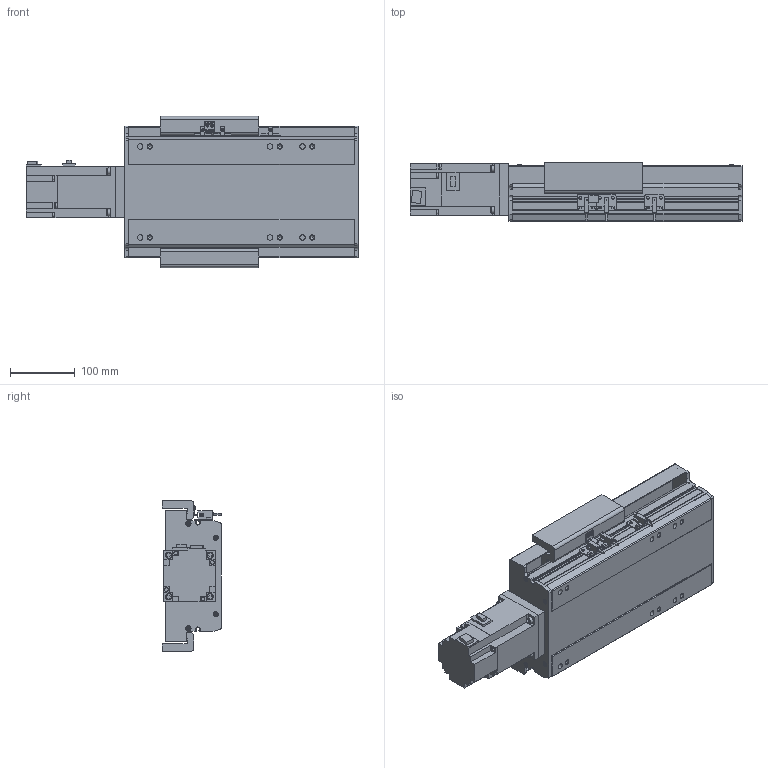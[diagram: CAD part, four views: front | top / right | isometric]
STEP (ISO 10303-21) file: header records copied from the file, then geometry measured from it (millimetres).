
FILE_DESCRIPTION(/* description */ ('STEP AP214'),/* implementation_level */ '2;1');
FILE_NAME(/* name */ 'PSM170-L10-S100-BC-T75-C1-N(0)',/* time_stamp */ '2022-06-13T03:23:58+02:00',/* author */ ('License CC BY-ND 4.0'),/* organization */ ('CADENAS'),/* preprocessor_version */ 'ST-DEVELOPER v18.102',/* originating_system */ 'PARTsolutions',/* authorisation */ ' ');
FILE_SCHEMA (('AUTOMOTIVE_DESIGN {1 0 10303 214 3 1 1}'));
Length unit declared in the file: millimetre
Products named in the file (8): PSM170-L10-S100-BC-T75-C1-N(0); PSM-Sensor; PSM140-S100-342.5; T75-p1; PSM170_body2; PSM170_body3; PSM170-S100_body1; PSM170-L10-S100-BC-T75-C1-N(0)_dummy
Assembly tree (11 placements, depth 2):
  PSM170-L10-S100-BC-T75-C1-N(0)
    PSM-Sensor  x3
    PSM140-S100-342.5  x3
    T75-p1
    PSM170_body2
    PSM170_body3
    PSM170-S100_body1
    PSM170-L10-S100-BC-T75-C1-N(0)_dummy
Bounding box: 511.3 x 92 x 233 mm (x, y, z)
Volume: 3460564 mm3; surface area: 641180.1 mm2
Topology: 10 solids, 10 shells, 975 faces, 2591 edges, 1688 vertices
Faces by surface type: plane 636, cylinder 273, cone 52, torus 14
Full cylindrical faces by diameter (mm): 2.8 x3, 3.08 x1, 4.134 x4, 4.5 x12, 4.6 x3, 5.7 x2, 6 x9, 6.647 x14, 7 x8, 7.6 x4, 8 x8, 8.5 x6, 10 x4, 14 x6, 45 x1, 70 x1
Entity records: 25309 total; most frequent: CARTESIAN_POINT 4518, DIRECTION 4270, ORIENTED_EDGE 4076, EDGE_CURVE 2038, LINE 1424, VECTOR 1424, AXIS2_PLACEMENT_3D 1423, VERTEX_POINT 1418
